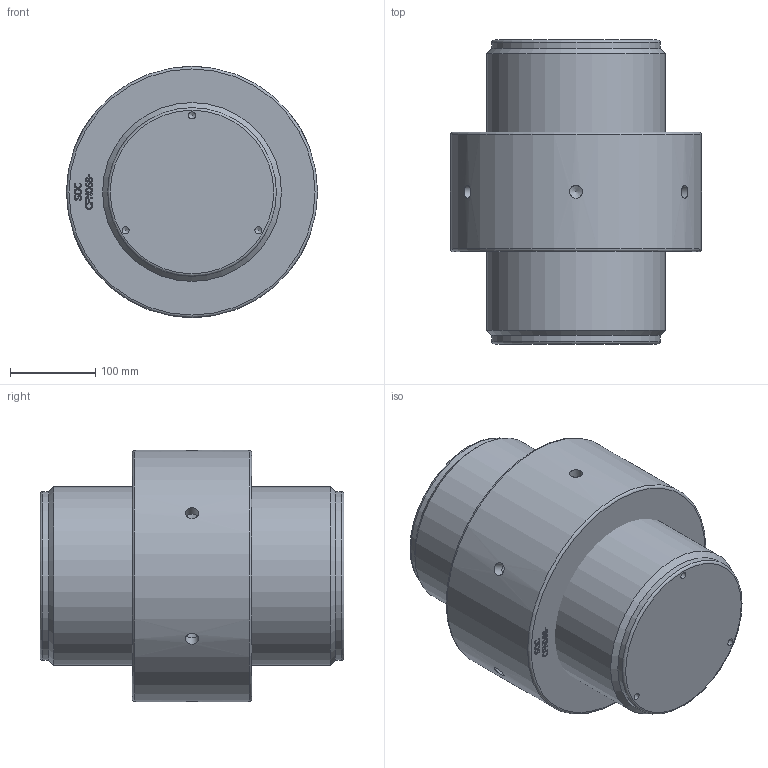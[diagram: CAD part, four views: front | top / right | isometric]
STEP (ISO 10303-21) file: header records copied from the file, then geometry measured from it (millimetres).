
FILE_DESCRIPTION(/* description */ (''),/* implementation_level */ '2;1');
FILE_NAME(/* name */ 'F:\Clienti LS\Redaelli\CYT\CYT\ARRNGEMENT\CYT068 61 061 0.stp',/* time_stamp */ '2021-05-09T08:48:45+02:00',/* author */ ('ranca'),/* organization */ (''),/* preprocessor_version */ 'ST-DEVELOPER v16.13',/* originating_system */ 'Autodesk Inventor 2018',/* authorisation */ '');
FILE_SCHEMA (('AUTOMOTIVE_DESIGN { 1 0 10303 214 3 1 1 }'));
Length unit declared in the file: millimetre
Products named in the file (3): CYT012-61-061-0; CYT012-61-061-0_1; CYT012-61-061-0_DADO
Assembly tree (2 placements, depth 2):
  CYT012-61-061-0
    CYT012-61-061-0_1
    CYT012-61-061-0_DADO
Bounding box: 295 x 357 x 295 mm (x, y, z)
Volume: 17348710.4 mm3; surface area: 593056 mm2
Topology: 2 solids, 2 shells, 368 faces, 998 edges, 664 vertices
Faces by surface type: bspline 224, plane 115, cylinder 14, cone 11, torus 4
Full cylindrical faces by diameter (mm): 8.376 x3, 15 x6, 198 x2, 201.34 x1, 210 x1, 295 x1
Entity records: 12704 total; most frequent: CARTESIAN_POINT 5096, ORIENTED_EDGE 1906, EDGE_CURVE 953, DIRECTION 817, VERTEX_POINT 648, LINE 467, VECTOR 467, B_SPLINE_CURVE_WITH_KNOTS 460
